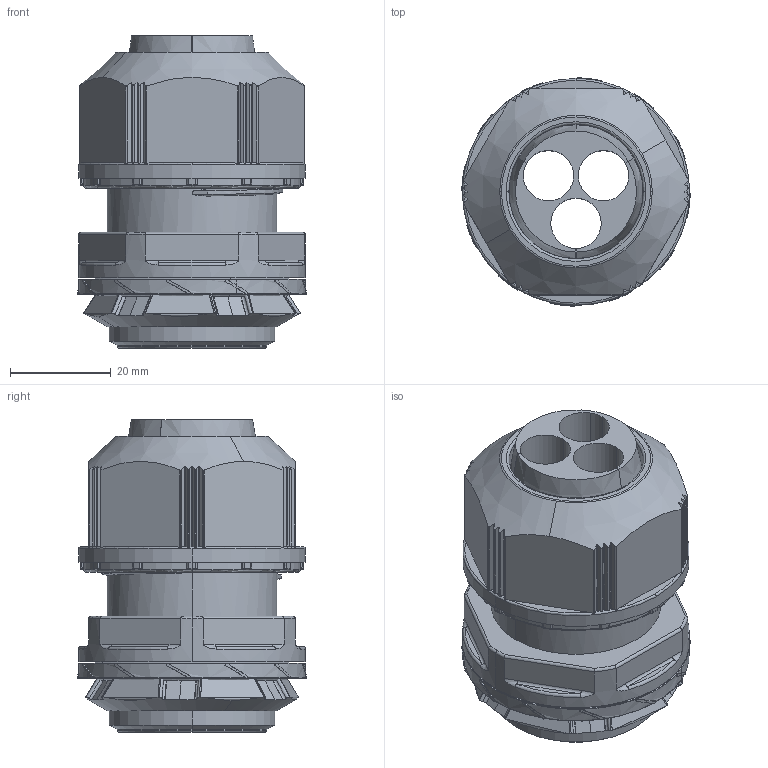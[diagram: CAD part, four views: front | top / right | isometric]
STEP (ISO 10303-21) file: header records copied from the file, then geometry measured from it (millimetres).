
FILE_DESCRIPTION(('CoCreate Modeling STEP Export'),'2;1');
FILE_NAME('OA-W28-0983RS_公開データ.stp','2011-07-29T11:53:13',(''),(''),'CoCreate Modeling STEP processor for AP214 (Solid Model)','CoCreate Modeling 17.00A 17-Jun-2010 (C) Parametric Technology GmbH','');
FILE_SCHEMA(('AUTOMOTIVE_DESIGN { 1 0 10303 214 1 1 1 1 }'));
Length unit declared in the file: millimetre
Products named in the file (7): OA-W28-0983RS; ゴムブッシュ; ロックナット; 菊座Oﾘﾝｸﾞ
Assembly tree (3 placements, depth 2):
  OA-W28-0983RS
    OA-W28-0983RS
  ゴムブッシュ
  ロックナット
    ロックナット
  菊座Oﾘﾝｸﾞ
    菊座Oﾘﾝｸﾞ
Bounding box: 45.3 x 45.3 x 62 mm (x, y, z)
Volume: 51084.8 mm3; surface area: 27109.9 mm2
Topology: 3 solids, 7 shells, 746 faces, 2002 edges, 1307 vertices
Faces by surface type: cylinder 268, plane 222, bspline 114, torus 68, extrusion 48, cone 26
Entity records: 45528 total; most frequent: CARTESIAN_POINT 29652, ORIENTED_EDGE 4004, DIRECTION 2034, EDGE_CURVE 2002, VERTEX_POINT 1307, B_SPLINE_CURVE_WITH_KNOTS 823, EDGE_LOOP 795, FACE_OUTER_BOUND 746
